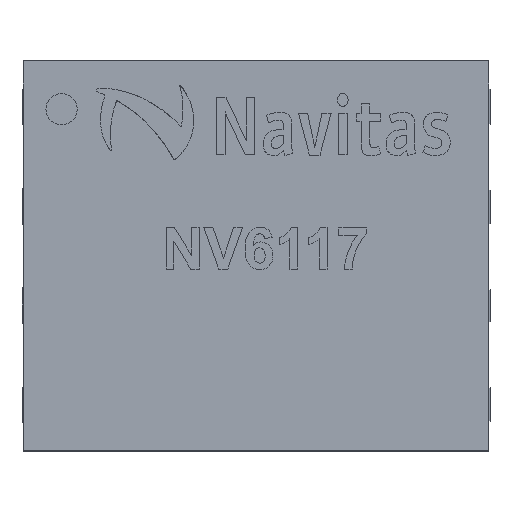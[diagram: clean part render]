
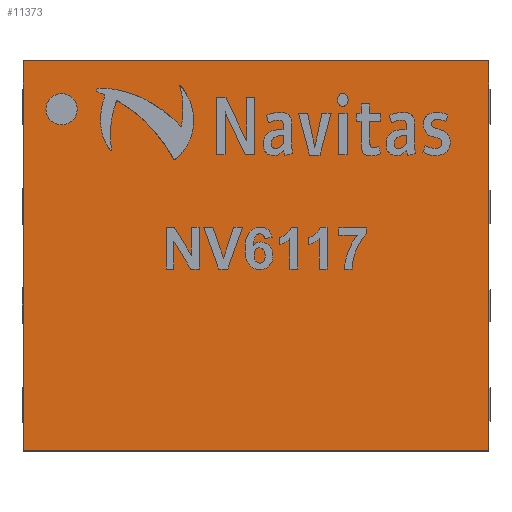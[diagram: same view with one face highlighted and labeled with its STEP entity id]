
A CAD part, top view. The second image highlights one B-rep face of the part: STEP entity #11373.
In plain terms, the highlighted planar face has unit normal (0, 0, 1).
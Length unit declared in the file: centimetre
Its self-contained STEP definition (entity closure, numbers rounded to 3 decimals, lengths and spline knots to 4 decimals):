
#1490=LINE($,#13455,#2343);
#1491=LINE($,#13457,#2344);
#1492=LINE($,#13459,#2345);
#1493=LINE($,#13460,#2346);
#2343=VECTOR($,#12257,0.5);
#2344=VECTOR($,#12258,0.5969);
#2345=VECTOR($,#12259,0.5);
#2346=VECTOR($,#12260,0.5969);
#3194=PLANE($,#12073);
#3361=FACE_BOUND($,#4025,.T.);
#3362=FACE_BOUND($,#4026,.T.);
#4025=EDGE_LOOP($,(#7730));
#4026=EDGE_LOOP($,(#7731,#7732,#7733,#7734));
#4682=CIRCLE($,#12069,0.02);
#4684=VERTEX_POINT($,#13438);
#4690=VERTEX_POINT($,#13453);
#4691=VERTEX_POINT($,#13454);
#4692=VERTEX_POINT($,#13456);
#4693=VERTEX_POINT($,#13458);
#5900=EDGE_CURVE($,#4684,#4684,#4682,.T.);
#5906=EDGE_CURVE($,#4690,#4691,#1490,.T.);
#5907=EDGE_CURVE($,#4691,#4692,#1491,.T.);
#5908=EDGE_CURVE($,#4692,#4693,#1492,.T.);
#5909=EDGE_CURVE($,#4693,#4690,#1493,.T.);
#7730=ORIENTED_EDGE($,*,*,#5900,.T.);
#7731=ORIENTED_EDGE($,*,*,#5906,.T.);
#7732=ORIENTED_EDGE($,*,*,#5907,.T.);
#7733=ORIENTED_EDGE($,*,*,#5908,.T.);
#7734=ORIENTED_EDGE($,*,*,#5909,.T.);
#11373=ADVANCED_FACE($,(#3361,#3362),#3194,.F.);
#12069=AXIS2_PLACEMENT_3D($,#13439,#12243,#12244);
#12073=AXIS2_PLACEMENT_3D($,#13452,#12255,#12256);
#12243=DIRECTION('center_axis',(0.,0.,-1.));
#12244=DIRECTION('ref_axis',(1.,0.,0.));
#12255=DIRECTION('center_axis',(0.,0.,-1.));
#12256=DIRECTION('ref_axis',(-1.,0.,0.));
#12257=DIRECTION($,(0.,1.,0.));
#12258=DIRECTION($,(-1.,0.,0.));
#12259=DIRECTION($,(0.,-1.,0.));
#12260=DIRECTION($,(1.,0.,0.));
#13438=CARTESIAN_POINT('',(-0.5702,0.4441,0.0899));
#13439=CARTESIAN_POINT('Origin',(-0.5502,0.4441,0.0899));
#13452=CARTESIAN_POINT('Origin',(-0.301,0.2561,0.0899));
#13453=CARTESIAN_POINT('',(-0.0026,0.0061,0.0899));
#13454=CARTESIAN_POINT('',(-0.0026,0.5061,0.0899));
#13455=CARTESIAN_POINT($,(-0.0026,0.2561,0.0899));
#13456=CARTESIAN_POINT('',(-0.5995,0.5061,0.0899));
#13457=CARTESIAN_POINT($,(-0.301,0.5061,0.0899));
#13458=CARTESIAN_POINT('',(-0.5995,0.0061,0.0899));
#13459=CARTESIAN_POINT($,(-0.5995,0.2561,0.0899));
#13460=CARTESIAN_POINT($,(-0.301,0.0061,0.0899));
